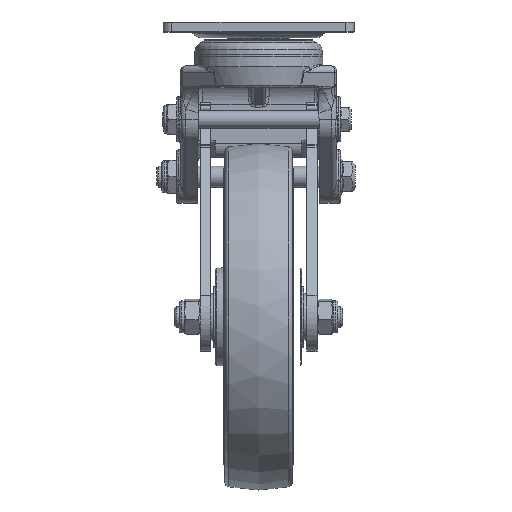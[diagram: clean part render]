
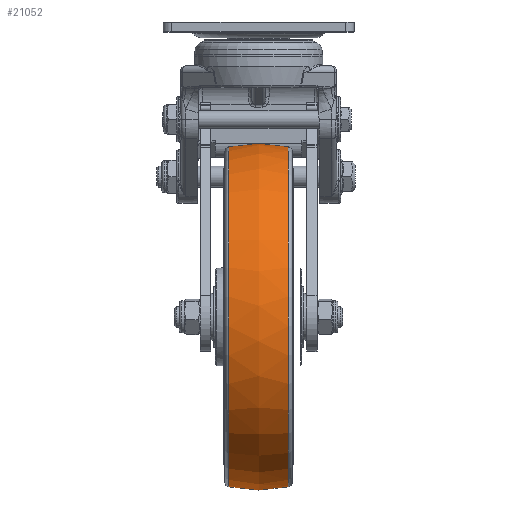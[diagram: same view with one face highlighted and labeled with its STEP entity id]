
A CAD part, front view. The second image highlights one B-rep face of the part: STEP entity #21052.
In plain terms, the highlighted free-form (B-spline) face has degree [2, 2] with [3, 9] control points.
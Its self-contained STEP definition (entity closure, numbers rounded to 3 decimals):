
#13=(
BOUNDED_SURFACE()
B_SPLINE_SURFACE(2,2,((#47640,#47641,#47642,#47643,#47644,#47645,#47646,
#47647,#47648),(#47649,#47650,#47651,#47652,#47653,#47654,#47655,#47656,
#47657),(#47658,#47659,#47660,#47661,#47662,#47663,#47664,#47665,#47666)),
 .UNSPECIFIED.,.F.,.T.,.F.)
B_SPLINE_SURFACE_WITH_KNOTS((3,3),(3,2,2,2,3),(-0.216,0.216),
(-3.142,-1.571,0.,1.571,3.142),
 .UNSPECIFIED.)
GEOMETRIC_REPRESENTATION_ITEM()
RATIONAL_B_SPLINE_SURFACE(((1.,0.707,1.,0.707,1.,
0.707,1.,0.707,1.),(0.977,0.691,
0.977,0.691,0.977,0.691,0.977,
0.691,0.977),(1.,0.707,1.,0.707,
1.,0.707,1.,0.707,1.)))
REPRESENTATION_ITEM('')
SURFACE()
);
#2727=CIRCLE('',#23011,98.142);
#2728=CIRCLE('',#23012,98.142);
#2729=CIRCLE('',#23013,80.);
#2730=CIRCLE('',#23014,98.142);
#2731=CIRCLE('',#23015,98.142);
#4074=FACE_OUTER_BOUND('',#5344,.T.);
#5344=EDGE_LOOP('',(#18263,#18264,#18265,#18266,#18267,#18268));
#9266=VERTEX_POINT('',#47635);
#9267=VERTEX_POINT('',#47637);
#9268=VERTEX_POINT('',#47667);
#9269=VERTEX_POINT('',#47669);
#12273=EDGE_CURVE('',#9266,#9267,#2727,.T.);
#12274=EDGE_CURVE('',#9267,#9266,#2728,.T.);
#12275=EDGE_CURVE('',#9266,#9268,#2729,.T.);
#12276=EDGE_CURVE('',#9268,#9269,#2730,.T.);
#12277=EDGE_CURVE('',#9269,#9268,#2731,.T.);
#18263=ORIENTED_EDGE('',*,*,#12274,.F.);
#18264=ORIENTED_EDGE('',*,*,#12273,.F.);
#18265=ORIENTED_EDGE('',*,*,#12275,.T.);
#18266=ORIENTED_EDGE('',*,*,#12276,.T.);
#18267=ORIENTED_EDGE('',*,*,#12277,.T.);
#18268=ORIENTED_EDGE('',*,*,#12275,.F.);
#21052=ADVANCED_FACE('',(#4074),#13,.F.);
#23011=AXIS2_PLACEMENT_3D('',#47638,#27883,#27884);
#23012=AXIS2_PLACEMENT_3D('',#47639,#27885,#27886);
#23013=AXIS2_PLACEMENT_3D('',#47668,#27887,#27888);
#23014=AXIS2_PLACEMENT_3D('',#47670,#27889,#27890);
#23015=AXIS2_PLACEMENT_3D('',#47671,#27891,#27892);
#27883=DIRECTION('center_axis',(-1.,0.,0.));
#27884=DIRECTION('ref_axis',(0.,-0.8,0.6));
#27885=DIRECTION('center_axis',(-1.,0.,0.));
#27886=DIRECTION('ref_axis',(0.,-0.8,0.6));
#27887=DIRECTION('center_axis',(0.,-0.6,
-0.8));
#27888=DIRECTION('ref_axis',(0.,0.8,-0.6));
#27889=DIRECTION('center_axis',(-1.,0.,0.));
#27890=DIRECTION('ref_axis',(0.,-0.8,0.6));
#27891=DIRECTION('center_axis',(-1.,0.,0.));
#27892=DIRECTION('ref_axis',(0.,-0.8,0.6));
#47635=CARTESIAN_POINT('',(-17.143,23.519,-228.88));
#47637=CARTESIAN_POINT('',(-17.143,-133.516,-111.12));
#47638=CARTESIAN_POINT('Origin',(-17.143,-54.999,-170.));
#47639=CARTESIAN_POINT('Origin',(-17.143,-54.999,-170.));
#47640=CARTESIAN_POINT('Ctrl Pts',(17.143,23.519,-228.88));
#47641=CARTESIAN_POINT('Ctrl Pts',(17.143,-35.361,-307.397));
#47642=CARTESIAN_POINT('Ctrl Pts',(17.143,-113.878,-248.517));
#47643=CARTESIAN_POINT('Ctrl Pts',(17.143,-192.396,-189.638));
#47644=CARTESIAN_POINT('Ctrl Pts',(17.143,-133.516,-111.12));
#47645=CARTESIAN_POINT('Ctrl Pts',(17.143,-74.636,-32.603));
#47646=CARTESIAN_POINT('Ctrl Pts',(17.143,3.881,-91.483));
#47647=CARTESIAN_POINT('Ctrl Pts',(17.143,82.398,-150.362));
#47648=CARTESIAN_POINT('Ctrl Pts',(17.143,23.519,-228.88));
#47649=CARTESIAN_POINT('Ctrl Pts',(0.,26.528,
-231.136));
#47650=CARTESIAN_POINT('Ctrl Pts',(0.,-34.608,
-312.662));
#47651=CARTESIAN_POINT('Ctrl Pts',(0.,-116.134,
-251.526));
#47652=CARTESIAN_POINT('Ctrl Pts',(0.,-197.661,
-190.39));
#47653=CARTESIAN_POINT('Ctrl Pts',(0.,-136.525,
-108.864));
#47654=CARTESIAN_POINT('Ctrl Pts',(0.,-75.389,
-27.338));
#47655=CARTESIAN_POINT('Ctrl Pts',(0.,6.137,
-88.474));
#47656=CARTESIAN_POINT('Ctrl Pts',(0.,87.664,
-149.61));
#47657=CARTESIAN_POINT('Ctrl Pts',(0.,26.528,
-231.136));
#47658=CARTESIAN_POINT('Ctrl Pts',(-17.143,23.519,-228.88));
#47659=CARTESIAN_POINT('Ctrl Pts',(-17.143,-35.361,
-307.397));
#47660=CARTESIAN_POINT('Ctrl Pts',(-17.143,-113.878,
-248.517));
#47661=CARTESIAN_POINT('Ctrl Pts',(-17.143,-192.396,
-189.638));
#47662=CARTESIAN_POINT('Ctrl Pts',(-17.143,-133.516,
-111.12));
#47663=CARTESIAN_POINT('Ctrl Pts',(-17.143,-74.636,
-32.603));
#47664=CARTESIAN_POINT('Ctrl Pts',(-17.143,3.881,-91.483));
#47665=CARTESIAN_POINT('Ctrl Pts',(-17.143,82.398,-150.362));
#47666=CARTESIAN_POINT('Ctrl Pts',(-17.143,23.519,-228.88));
#47667=CARTESIAN_POINT('',(17.143,23.519,-228.88));
#47668=CARTESIAN_POINT('Origin',(0.,-38.998,
-181.999));
#47669=CARTESIAN_POINT('',(17.143,-133.516,-111.12));
#47670=CARTESIAN_POINT('Origin',(17.143,-54.999,-170.));
#47671=CARTESIAN_POINT('Origin',(17.143,-54.999,-170.));
